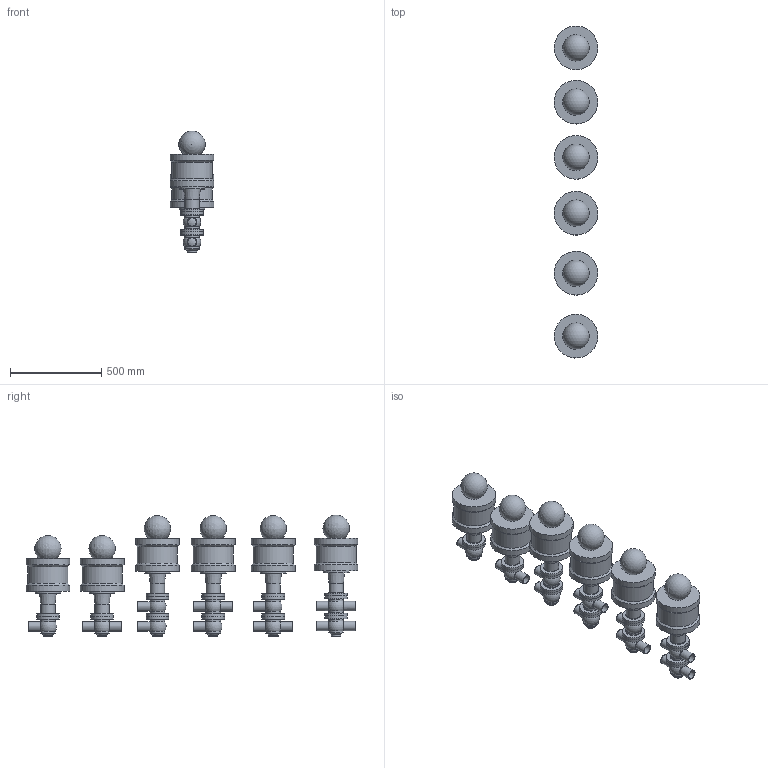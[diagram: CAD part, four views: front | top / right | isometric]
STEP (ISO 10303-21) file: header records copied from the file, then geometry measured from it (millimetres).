
FILE_DESCRIPTION(/* description */ (''),/* implementation_level */ '2;1');
FILE_NAME(/* name */ 'C:\Users\marz-m\Desktop\PDF\BBZQ 3D STEP\BBZQ-DN508-CIL.207.stp',/* time_stamp */ '2018-04-13T14:54:33+02:00',/* author */ ('marz-m'),/* organization */ (''),/* preprocessor_version */ 'ST-DEVELOPER v17',/* originating_system */ 'Autodesk Inventor 2018',/* authorisation */ '');
FILE_SCHEMA (('AUTOMOTIVE_DESIGN { 1 0 10303 214 3 1 1 }'));
Length unit declared in the file: millimetre
Products named in the file (8): BBZQ-DN508-CIL.207; ASSEMBL DN50 BBZQ; CILINDRO 207; SAGOMA-GIOTTO-; COR-INF-L-BBZQ-DN052X3-SALD; COR-INF-T-BBZQ-DN052X3-SALD; CORPO-SUP-INF-BBZQ-L-DN52X3-SALD; CORPO-SUP-INF-BBZQ-T-DN52X3-SALD
Assembly tree (28 placements, depth 2):
  BBZQ-DN508-CIL.207
    ASSEMBL DN50 BBZQ  x6
    CILINDRO 207  x6
    SAGOMA-GIOTTO-  x6
    COR-INF-L-BBZQ-DN052X3-SALD  x3
    COR-INF-T-BBZQ-DN052X3-SALD  x3
    CORPO-SUP-INF-BBZQ-L-DN52X3-SALD  x2
    CORPO-SUP-INF-BBZQ-T-DN52X3-SALD  x2
Bounding box: 240 x 1823.25 x 668.62 mm (x, y, z)
Volume: 67006707 mm3; surface area: 3167746.6 mm2
Topology: 28 solids, 28 shells, 326 faces, 758 edges, 562 vertices
Faces by surface type: cylinder 124, plane 115, torus 32, sphere 31, cone 24
Full cylindrical faces by diameter (mm): 25.4 x6, 46 x21, 52 x21, 69.8 x6, 79 x6, 80 x20, 124 x20, 141 x6, 221 x6, 240 x12
Entity records: 3605 total; most frequent: CARTESIAN_POINT 779, DIRECTION 645, ORIENTED_EDGE 438, AXIS2_PLACEMENT_3D 301, EDGE_CURVE 219, CIRCLE 168, VERTEX_POINT 163, EDGE_LOOP 124
